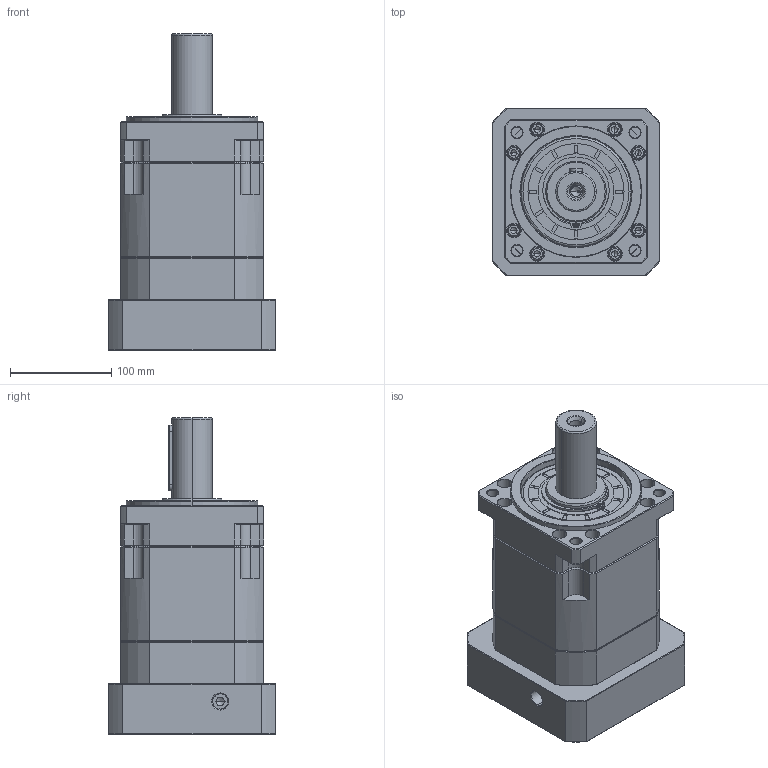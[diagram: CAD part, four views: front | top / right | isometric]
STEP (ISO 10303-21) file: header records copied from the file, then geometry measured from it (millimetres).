
FILE_DESCRIPTION (( 'STEP AP214' ), '1' );
FILE_NAME ('ZB142A-D40-L2-32-130-165-M10.step', '2023-03-17T10:46:56', ( '' ), ( '' ), 'SwSTEP 2.0', 'SolidWorks 2016', '' );
FILE_SCHEMA (( 'AUTOMOTIVE_DESIGN' ));
Length unit declared in the file: millimetre
Products named in the file (1): ZB142A-D40-L2-32-130-165-M10
Bounding box: 166 x 166 x 313.2 mm (x, y, z)
Volume: 4335620.2 mm3; surface area: 324590.5 mm2
Topology: 6 solids, 6 shells, 2042 faces, 5397 edges, 3454 vertices
Faces by surface type: plane 923, cylinder 432, cone 352, bspline 313, torus 22
Entity records: 113511 total; most frequent: CARTESIAN_POINT 43096, ORIENTED_EDGE 10734, DIRECTION 8819, EDGE_CURVE 5367, VERTEX_POINT 3454, LINE 3283, VECTOR 3283, AXIS2_PLACEMENT_3D 2768
